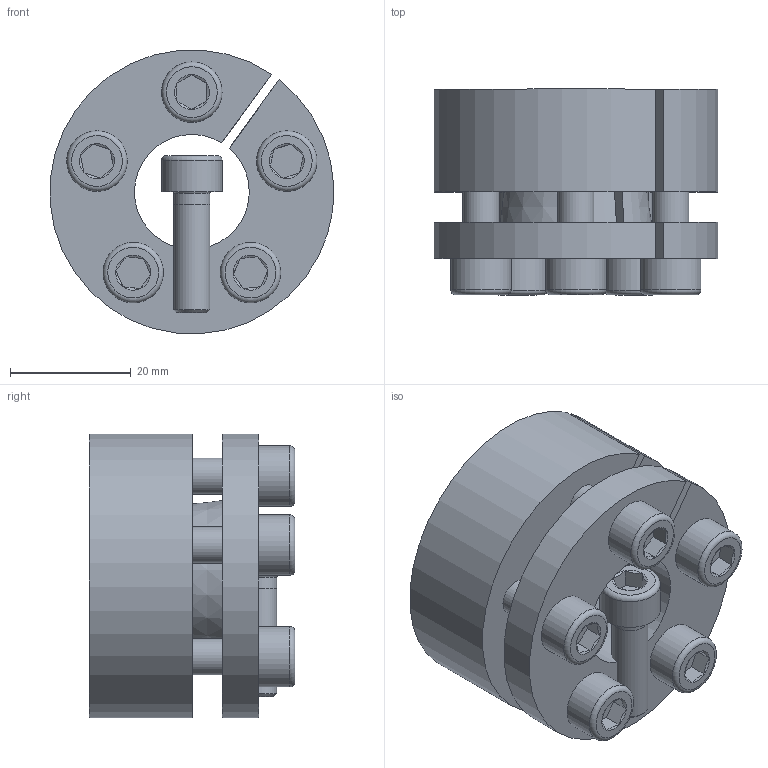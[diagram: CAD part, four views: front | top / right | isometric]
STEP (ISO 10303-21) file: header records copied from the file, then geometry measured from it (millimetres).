
FILE_DESCRIPTION( ( 'Unknown' ), '1' );
FILE_NAME( 'C:/Dokumente und Einstellungen/Sven/Desktop/homepage/cad - homepage/KBS13/KBS 13 - 19 x 47.stp', 'Unknown', ( 'Unknown' ), ( 'Unknown' ), 'XStep 1.0', 'Unknown', ' ' );
FILE_SCHEMA( ( 'automotive_design' ) );
Length unit declared in the file: millimetre
Products named in the file (3): Assem1; KBS 13 - 19 x 47; ISO EN DIN 4762 M6x20
Bounding box: 46.9 x 34 x 46.88 mm (x, y, z)
Volume: 66628.8 mm3; surface area: 30686.9 mm2
Topology: 8 solids, 8 shells, 194 faces, 398 edges, 244 vertices
Faces by surface type: plane 86, cylinder 50, cone 46, torus 12
Full cylindrical faces by diameter (mm): 5 x6, 6 x32, 10 x6
Entity records: 1552 total; most frequent: CARTESIAN_POINT 260, DIRECTION 230, ORIENTED_EDGE 170, AXIS2_PLACEMENT_3D 101, EDGE_LOOP 88, EDGE_CURVE 85, FACE_OUTER_BOUND 63, VERTEX_POINT 63
